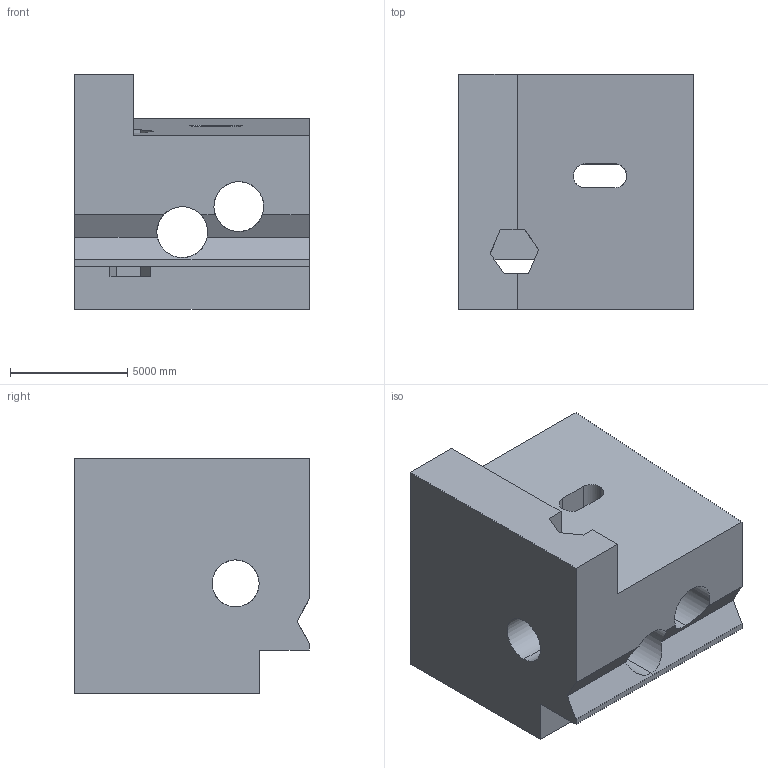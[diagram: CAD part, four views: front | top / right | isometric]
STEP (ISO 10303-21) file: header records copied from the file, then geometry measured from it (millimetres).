
FILE_DESCRIPTION (( 'STEP AP203' ), '1' );
FILE_NAME ('340.STEP', '2022-09-07T13:00:14', ( 'user' ), ( '' ), 'SwSTEP 2.0', 'SolidWorks 2021', '' );
FILE_SCHEMA (( 'CONFIG_CONTROL_DESIGN' ));
Length unit declared in the file: centimetre
Products named in the file (1): 340
Bounding box: 10000 x 10000 x 10000 mm (x, y, z)
Volume: 659398864416.1 mm3; surface area: 762358462.3 mm2
Topology: 1 solids, 1 shells, 41 faces, 156 edges, 104 vertices
Faces by surface type: plane 27, cylinder 14
Entity records: 3060 total; most frequent: CARTESIAN_POINT 1709, ORIENTED_EDGE 312, DIRECTION 222, EDGE_CURVE 156, VERTEX_POINT 104, LINE 100, VECTOR 100, AXIS2_PLACEMENT_3D 61
